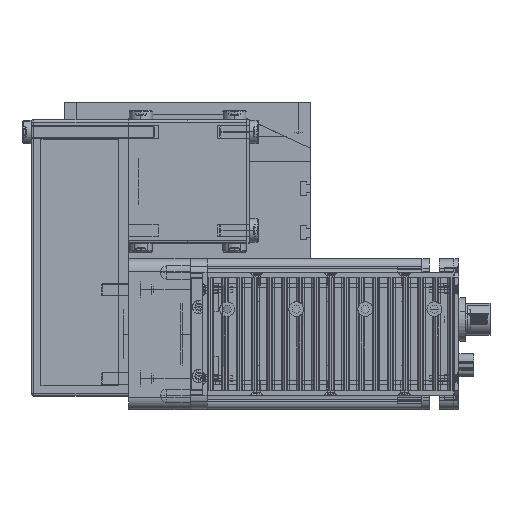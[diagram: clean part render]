
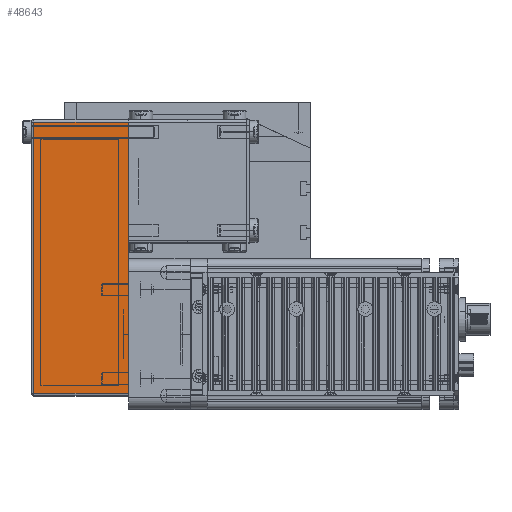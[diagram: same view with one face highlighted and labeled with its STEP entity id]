
A CAD part, top view. The second image highlights one B-rep face of the part: STEP entity #48643.
In plain terms, the highlighted planar face has unit normal (0, 0, 1) as drawn and (0, 1, 0) by its records, which use the part's own axes.
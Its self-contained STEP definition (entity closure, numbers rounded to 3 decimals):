
#7266 = CARTESIAN_POINT ( 'NONE',  ( 61., 25., 39.5 ) ) ;
#7268 = LINE ( 'NONE', #7266, #7386 ) ;
#7385 = DIRECTION ( 'NONE',  ( 0., 0., 1. ) ) ;
#7386 = VECTOR ( 'NONE', #7385, 1000. ) ;
#7935 = DIRECTION ( 'NONE',  ( 0., -1., 0. ) ) ;
#7936 = CARTESIAN_POINT ( 'NONE',  ( -50., 25., 39.5 ) ) ;
#7940 = FACE_OUTER_BOUND ( 'NONE', #48586, .T. ) ;
#7942 = DIRECTION ( 'NONE',  ( -1., 0., 0. ) ) ;
#7943 = VECTOR ( 'NONE', #7942, 1000. ) ;
#7945 = CARTESIAN_POINT ( 'NONE',  ( -50., 25., 38.5 ) ) ;
#7956 = LINE ( 'NONE', #7945, #7943 ) ;
#8044 = DIRECTION ( 'NONE',  ( 0., 0., -1. ) ) ;
#8053 = AXIS2_PLACEMENT_3D ( 'NONE', #7936, #7935, #8044 ) ;
#8055 = PLANE ( 'NONE',  #8053 ) ;
#8902 = CARTESIAN_POINT ( 'NONE',  ( 61., 25., 38.5 ) ) ;
#9004 = CARTESIAN_POINT ( 'NONE',  ( -49., 25., 39.5 ) ) ;
#9005 = LINE ( 'NONE', #9004, #9019 ) ;
#9017 = DIRECTION ( 'NONE',  ( 0., 0., -1. ) ) ;
#9019 = VECTOR ( 'NONE', #9017, 1000. ) ;
#9021 = CARTESIAN_POINT ( 'NONE',  ( 61., 25., 0. ) ) ;
#35672 = CARTESIAN_POINT ( 'NONE',  ( -49., 25., 38.5 ) ) ;
#35704 = CARTESIAN_POINT ( 'NONE',  ( -49., 25., 0. ) ) ;
#37803 = VECTOR ( 'NONE', #37810, 1000. ) ;
#37804 = CARTESIAN_POINT ( 'NONE',  ( -50., 25., 0. ) ) ;
#37810 = DIRECTION ( 'NONE',  ( -1., 0., 0. ) ) ;
#37813 = LINE ( 'NONE', #37804, #37803 ) ;
#46611 = VERTEX_POINT ( 'NONE', #35672 ) ;
#46629 = VERTEX_POINT ( 'NONE', #35704 ) ;
#48457 = EDGE_CURVE ( 'NONE', #48924, #48923, #7268, .T. ) ;
#48541 = EDGE_CURVE ( 'NONE', #48924, #46629, #37813, .T. ) ;
#48548 = ORIENTED_EDGE ( 'NONE', *, *, #48457, .F. ) ;
#48582 = ORIENTED_EDGE ( 'NONE', *, *, #48935, .F. ) ;
#48586 = EDGE_LOOP ( 'NONE', ( #48582, #48637, #48548, #48673 ) ) ;
#48633 = EDGE_CURVE ( 'NONE', #48923, #46611, #7956, .T. ) ;
#48637 = ORIENTED_EDGE ( 'NONE', *, *, #48633, .F. ) ;
#48643 = ADVANCED_FACE ( 'NONE', ( #7940 ), #8055, .F. ) ;
#48673 = ORIENTED_EDGE ( 'NONE', *, *, #48541, .T. ) ;
#48923 = VERTEX_POINT ( 'NONE', #8902 ) ;
#48924 = VERTEX_POINT ( 'NONE', #9021 ) ;
#48935 = EDGE_CURVE ( 'NONE', #46611, #46629, #9005, .T. ) ;
